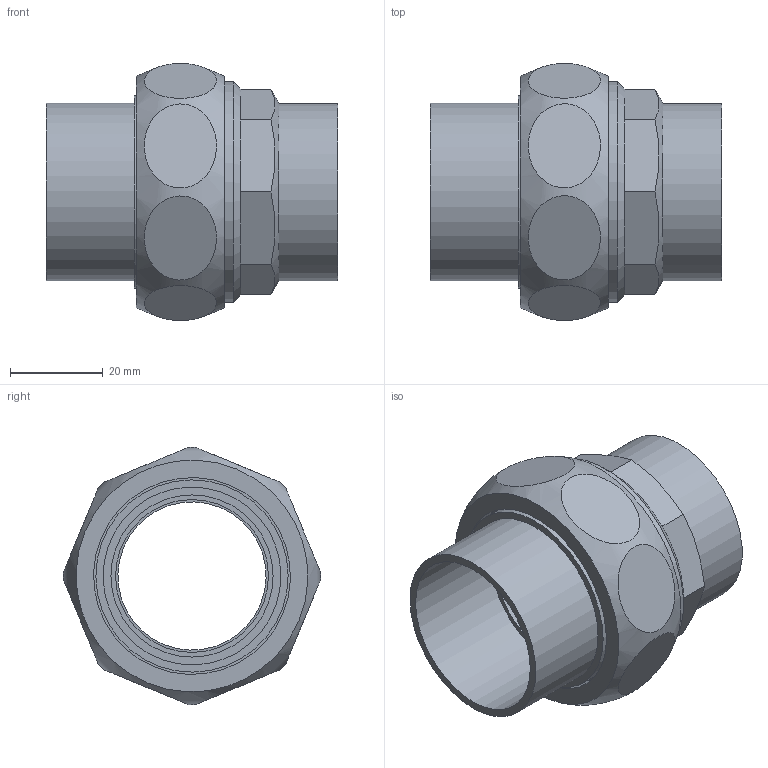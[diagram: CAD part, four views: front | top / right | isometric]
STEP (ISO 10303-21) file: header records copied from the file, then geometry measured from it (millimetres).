
FILE_DESCRIPTION(/* description */ (''),/* implementation_level */ '2;1');
FILE_NAME(/* name */ '\\LG50011\SANHA_Legnica\Engineering\Public\RYSUNKI\SANHA POLSKA\4330\step\14330_35(2).stp',/* time_stamp */ '2018-08-08T10:36:06+02:00',/* author */ ('gomulka'),/* organization */ (''),/* preprocessor_version */ 'ST-DEVELOPER v16.13',/* originating_system */ 'Autodesk Inventor 2018',/* authorisation */ '');
FILE_SCHEMA (('AUTOMOTIVE_DESIGN { 1 0 10303 214 3 1 1 }'));
Length unit declared in the file: millimetre
Products named in the file (5): 14330_35(2); 14374_112(1); 14370_35-112(2); 14372_35-112(1); 1DCU112_EPDM
Assembly tree (4 placements, depth 2):
  14330_35(2)
    14374_112(1)
    14370_35-112(2)
    14372_35-112(1)
    1DCU112_EPDM
Bounding box: 63 x 55.49 x 55.49 mm (x, y, z)
Volume: 38665.6 mm3; surface area: 26296.4 mm2
Topology: 4 solids, 4 shells, 48 faces, 85 edges, 58 vertices
Faces by surface type: plane 30, cylinder 13, cone 4, bspline 1
Full cylindrical faces by diameter (mm): 32 x1, 33 x2, 35 x2, 38.4 x2, 41.5 x1, 42.5 x1, 44 x1, 44.5 x1, 44.845 x1, 47.803 x1
Entity records: 1877 total; most frequent: CARTESIAN_POINT 814, DIRECTION 194, ORIENTED_EDGE 136, AXIS2_PLACEMENT_3D 89, EDGE_LOOP 86, EDGE_CURVE 68, VERTEX_POINT 58, FACE_OUTER_BOUND 48
